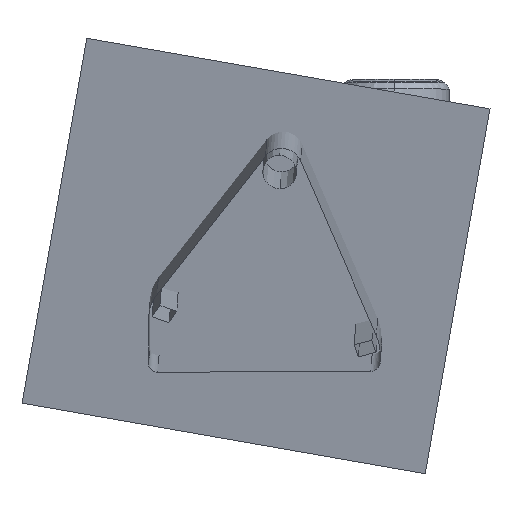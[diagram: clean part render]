
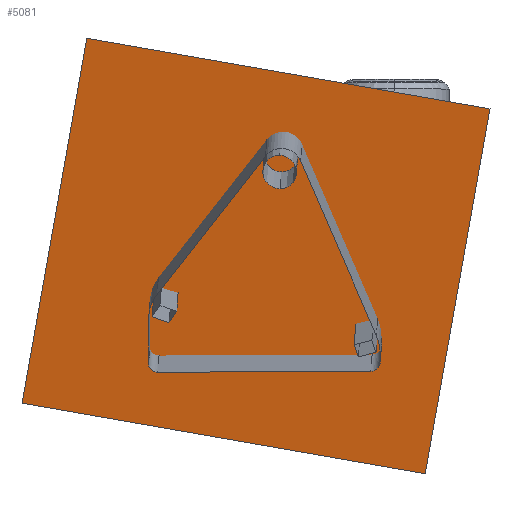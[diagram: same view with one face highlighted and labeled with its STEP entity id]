
A CAD part, top view. The second image highlights one B-rep face of the part: STEP entity #5081.
In plain terms, the highlighted planar face has unit normal (-0.013, -0.16, 0.987).
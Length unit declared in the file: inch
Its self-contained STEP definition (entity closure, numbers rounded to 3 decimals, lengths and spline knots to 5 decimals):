
#5042=CARTESIAN_POINT('Axis2P3D Location',(900.55005,7.7989,115.51679)) ;
#5047=CARTESIAN_POINT('Line Origine',(1327.02051,254.89044,161.27739)) ;
#5051=CARTESIAN_POINT('Vertex',(1231.34914,271.63001,162.74191)) ;
#5053=CARTESIAN_POINT('Vertex',(1422.69187,238.15087,159.81287)) ;
#5056=CARTESIAN_POINT('Line Origine',(1215.98239,185.05347,148.46851)) ;
#5060=CARTESIAN_POINT('Vertex',(1200.61565,98.47694,134.19511)) ;
#5063=CARTESIAN_POINT('Line Origine',(1296.28701,81.73736,132.73058)) ;
#5067=CARTESIAN_POINT('Vertex',(1391.95838,64.99779,131.26606)) ;
#5070=CARTESIAN_POINT('Line Origine',(1407.32512,151.57433,145.53946)) ;
#5043=DIRECTION('Axis2P3D Direction',(0.013,0.16,-0.987)) ;
#5044=DIRECTION('Axis2P3D XDirection',(-0.985,0.172,0.015)) ;
#5048=DIRECTION('Vector Direction',(-0.985,0.172,0.015)) ;
#5057=DIRECTION('Vector Direction',(0.173,0.972,0.16)) ;
#5064=DIRECTION('Vector Direction',(0.985,-0.172,-0.015)) ;
#5071=DIRECTION('Vector Direction',(-0.173,-0.972,-0.16)) ;
#5045=AXIS2_PLACEMENT_3D('Plane Axis2P3D',#5042,#5043,#5044) ;
#5076=ORIENTED_EDGE('',*,*,#5055,.F.) ;
#5077=ORIENTED_EDGE('',*,*,#5062,.F.) ;
#5078=ORIENTED_EDGE('',*,*,#5069,.F.) ;
#5079=ORIENTED_EDGE('',*,*,#5074,.F.) ;
#5049=VECTOR('Line Direction',#5048,0.03937) ;
#5058=VECTOR('Line Direction',#5057,0.03937) ;
#5065=VECTOR('Line Direction',#5064,0.03937) ;
#5072=VECTOR('Line Direction',#5071,0.03937) ;
#5081=ADVANCED_FACE('MLGR_CAV_PLN',(#5080),#5046,.F.) ;
#5055=EDGE_CURVE('',#5052,#5054,#5050,.F.) ;
#5062=EDGE_CURVE('',#5061,#5052,#5059,.T.) ;
#5069=EDGE_CURVE('',#5068,#5061,#5066,.F.) ;
#5074=EDGE_CURVE('',#5054,#5068,#5073,.T.) ;
#5075=EDGE_LOOP('',(#5076,#5077,#5078,#5079)) ;
#5080=FACE_OUTER_BOUND('',#5075,.T.) ;
#5050=LINE('Line',#5047,#5049) ;
#5059=LINE('Line',#5056,#5058) ;
#5066=LINE('Line',#5063,#5065) ;
#5073=LINE('Line',#5070,#5072) ;
#5046=PLANE('',#5045) ;
#5052=VERTEX_POINT('',#5051) ;
#5054=VERTEX_POINT('',#5053) ;
#5061=VERTEX_POINT('',#5060) ;
#5068=VERTEX_POINT('',#5067) ;
